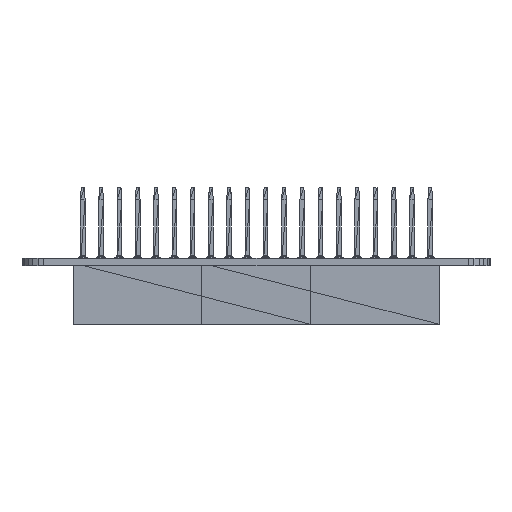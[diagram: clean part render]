
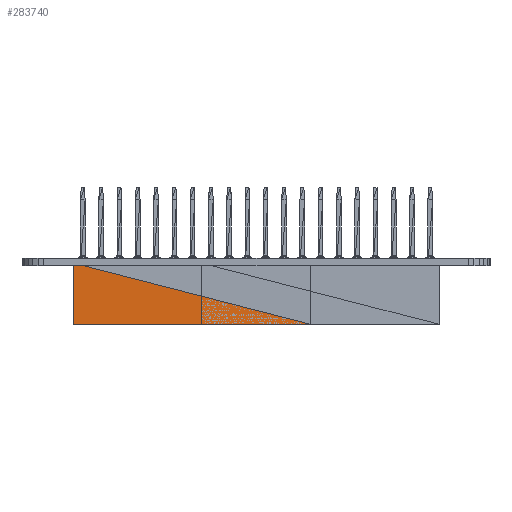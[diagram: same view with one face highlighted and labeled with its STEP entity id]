
A CAD part, front view. The second image highlights one B-rep face of the part: STEP entity #283740.
In plain terms, the highlighted planar face has unit normal (0, -1, 0) as drawn and (0, 0, -1) by its records, which use the part's own axes.
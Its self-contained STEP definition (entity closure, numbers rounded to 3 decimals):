
#23183=FACE_OUTER_BOUND('',#46981,.T.);
#46981=EDGE_LOOP('',(#233491,#233492,#233493));
#81108=LINE('',#459694,#116128);
#81117=LINE('',#459711,#116137);
#81118=LINE('',#459713,#116138);
#116128=VECTOR('',#386927,1.);
#116137=VECTOR('',#386944,1.);
#116138=VECTOR('',#386947,1.);
#130546=VERTEX_POINT('',#459687);
#130548=VERTEX_POINT('',#459693);
#130552=VERTEX_POINT('',#459709);
#164596=EDGE_CURVE('',#130546,#130548,#81108,.T.);
#164605=EDGE_CURVE('',#130552,#130546,#81117,.T.);
#164606=EDGE_CURVE('',#130548,#130552,#81118,.T.);
#233491=ORIENTED_EDGE('',*,*,#164596,.F.);
#233492=ORIENTED_EDGE('',*,*,#164605,.F.);
#233493=ORIENTED_EDGE('',*,*,#164606,.F.);
#260352=PLANE('',#308062);
#283740=ADVANCED_FACE('',(#23183),#260352,.F.);
#308062=AXIS2_PLACEMENT_3D('',#459712,#386945,#386946);
#386927=DIRECTION('',(0.968,0.249,0.));
#386944=DIRECTION('',(0.,-1.,0.));
#386945=DIRECTION('center_axis',(0.,0.,1.));
#386946=DIRECTION('ref_axis',(0.,1.,0.));
#386947=DIRECTION('',(-1.,0.,0.));
#459687=CARTESIAN_POINT('',(-34.335,10.648,-1.253));
#459693=CARTESIAN_POINT('',(-1.315,19.148,-1.253));
#459694=CARTESIAN_POINT('',(-34.335,10.648,-1.253));
#459709=CARTESIAN_POINT('',(-34.335,19.148,-1.253));
#459711=CARTESIAN_POINT('',(-34.335,19.148,-1.253));
#459712=CARTESIAN_POINT('Origin',(-1.315,19.148,-1.253));
#459713=CARTESIAN_POINT('',(-1.315,19.148,-1.253));
